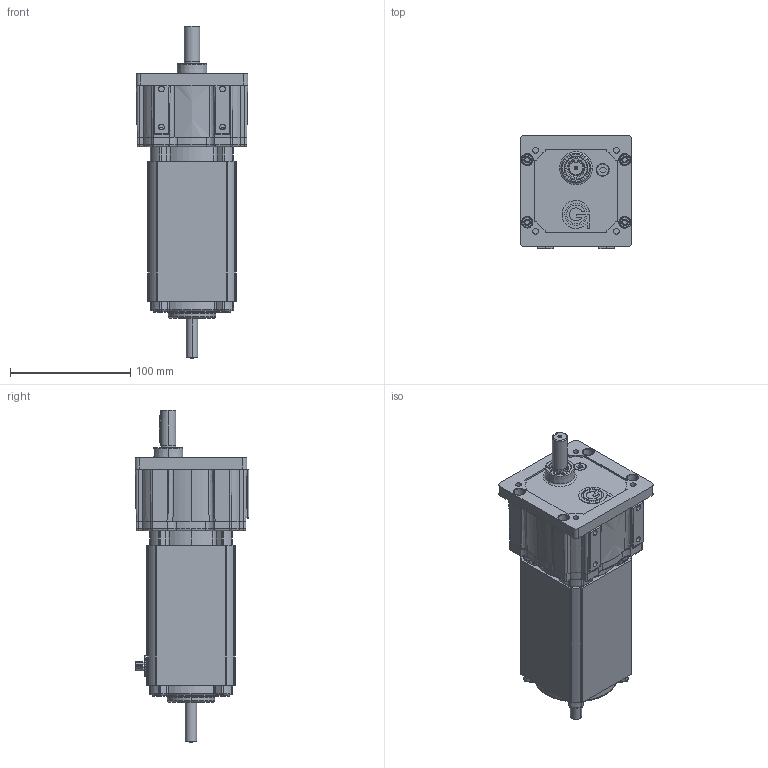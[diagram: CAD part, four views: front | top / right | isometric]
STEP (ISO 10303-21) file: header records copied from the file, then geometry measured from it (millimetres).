
FILE_DESCRIPTION (( 'STEP AP214' ), '1' );
FILE_NAME ('BL6520-PS1900.STEP', '2016-05-03T16:47:57', ( '' ), ( '' ), 'SwSTEP 2.0', 'SolidWorks 2015', '' );
FILE_SCHEMA (( 'AUTOMOTIVE_DESIGN' ));
Length unit declared in the file: millimetre
Products named in the file (1): BL6520-PS1900
Bounding box: 92.71 x 94.36 x 276.12 mm (x, y, z)
Surface area: 138632.1 mm2 (no closed solid volume)
Topology: 0 solids, 47 shells, 865 faces, 2853 edges, 2004 vertices
Faces by surface type: cylinder 342, plane 218, cone 153, torus 104, bspline 32, sphere 16
Entity records: 45351 total; most frequent: CARTESIAN_POINT 11382, DIRECTION 5179, ORIENTED_EDGE 4727, EDGE_CURVE 2834, VERTEX_POINT 2004, AXIS2_PLACEMENT_3D 2001, LINE 1177, VECTOR 1177
